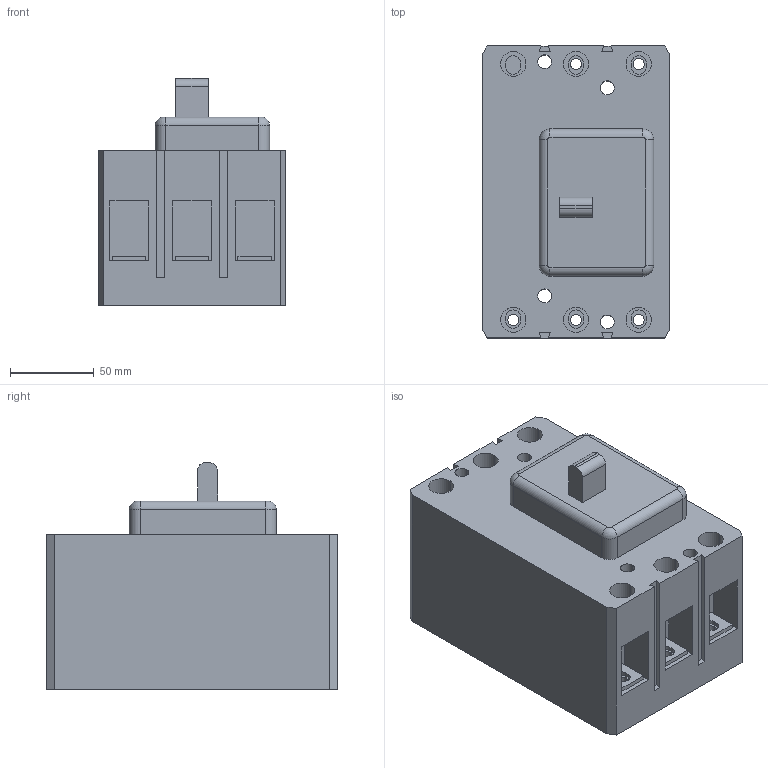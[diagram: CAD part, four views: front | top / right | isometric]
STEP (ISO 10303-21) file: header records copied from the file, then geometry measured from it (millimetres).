
FILE_DESCRIPTION (( 'STEP AP214' ), '1' );
FILE_NAME ('臍57-35 (2.5).STEP', '2023-07-18T13:05:27', ( '' ), ( '' ), 'SwSTEP 2.0', 'SolidWorks 2018', '' );
FILE_SCHEMA (( 'AUTOMOTIVE_DESIGN' ));
Length unit declared in the file: millimetre
Products named in the file (1): 臍57-35 (2.5)
Bounding box: 112.23 x 174.49 x 135.83 mm (x, y, z)
Volume: 1774933.6 mm3; surface area: 135002.6 mm2
Topology: 1 solids, 1 shells, 169 faces, 445 edges, 294 vertices
Faces by surface type: plane 110, cylinder 55, torus 4
Entity records: 5303 total; most frequent: CARTESIAN_POINT 909, DIRECTION 899, ORIENTED_EDGE 890, EDGE_CURVE 445, VECTOR 331, LINE 331, VERTEX_POINT 294, AXIS2_PLACEMENT_3D 284
